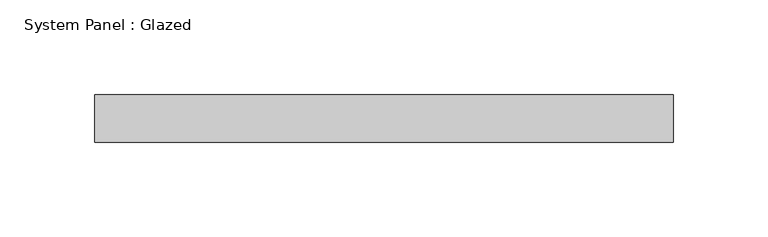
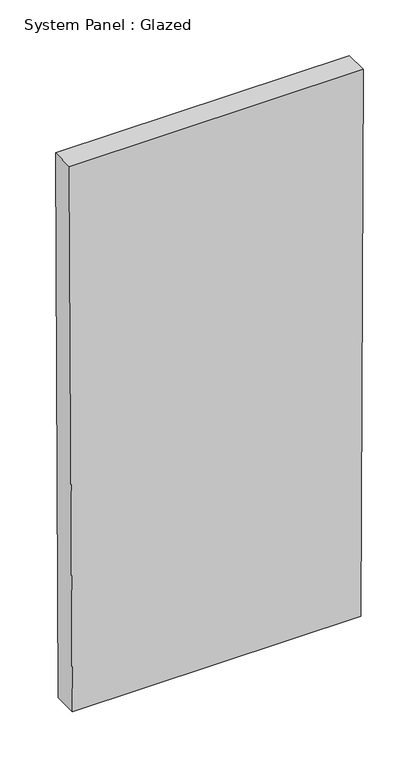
"""IFC4 building model written with IfcOpenShell, lengths in millimetres: plate geometry, System Panel : Glazed."""

from ifc_helpers import new_model, si_unit, frame, origin, place, context, project, spatial, polyline, outline, extrude, source, transform, mapped, element, save


def system_panel_glazed_d9b8dc20(model_context):
    return source(origin(), model_context, "Body", "SweptSolid", [
        extrude(outline(polyline([(0.0, -149.9173722), (0.0, 149.9173722), (599.9931346, 152.7876403), (599.9931346, -152.7876403), (0.0, -149.9173722)])), frame((0.0, 24.5, 0.0), z_axis=(0.0, 1.0, 0.0), x_axis=(0.0, 0.0, 1.0)), (0.0, 0.0, 1.0), 25.0),
    ])


if __name__ == "__main__":
    model = new_model("IFC4")
    model_context = context("Model", 3, world=origin())
    ifc_project = project(units=[si_unit("LENGTHUNIT", "METRE", prefix="MILLI")], contexts=[model_context])
    site = spatial("IfcSite", under=ifc_project)
    building = spatial("IfcBuilding", under=site)
    placement = place(None, origin())
    system_panel_glazed_shape = system_panel_glazed_d9b8dc20(model_context)
    element("IfcPlate", 1, ObjectType="System Panel : Glazed", at=placement, inside=building, context=model_context, shape_type="MappedRepresentation", body=[
        mapped(system_panel_glazed_shape, transform((0.0, 0.0, 0.0), x_axis=(1.0, 0.0, 0.0), y_axis=(0.0, 1.0, 0.0), z_axis=(0.0, 0.0, 1.0))),
    ])
    save(model, "model.ifc")
